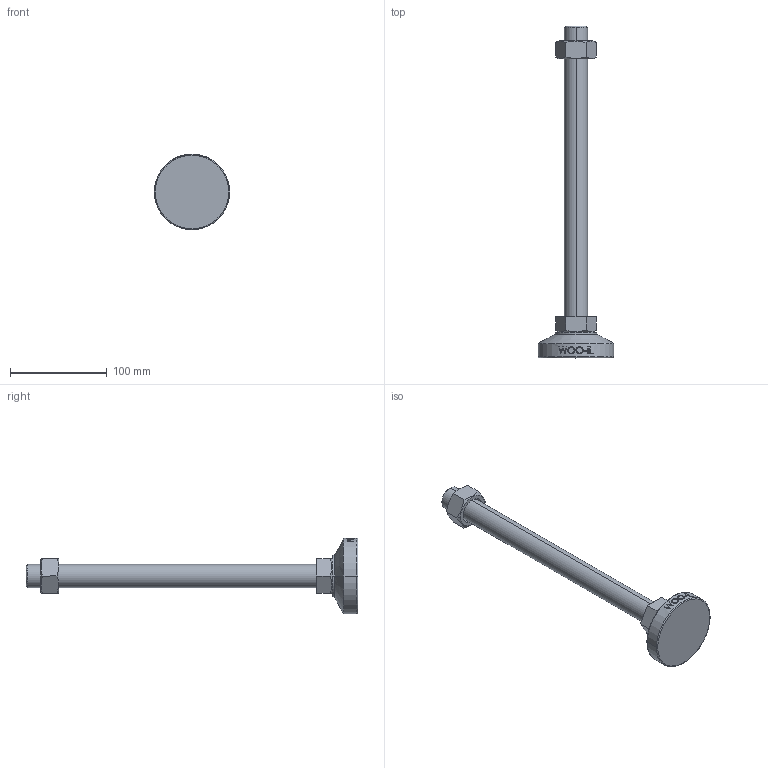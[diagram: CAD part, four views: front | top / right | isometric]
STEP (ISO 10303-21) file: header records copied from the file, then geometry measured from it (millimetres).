
FILE_DESCRIPTION (( 'STEP AP214' ), '1' );
FILE_NAME ('MFB78-M24-300.step', '2022-06-27T08:35:56', ( '' ), ( '' ), 'SwSTEP 2.0', 'SolidWorks 2019', '' );
FILE_SCHEMA (( 'AUTOMOTIVE_DESIGN' ));
Length unit declared in the file: millimetre
Products named in the file (1): MFB78-M24-300
Bounding box: 78 x 342.5 x 78 mm (x, y, z)
Volume: 268420.2 mm3; surface area: 45444.6 mm2
Topology: 3 solids, 3 shells, 97 faces, 225 edges, 144 vertices
Faces by surface type: plane 47, cylinder 16, bspline 16, cone 14, torus 4
Entity records: 4305 total; most frequent: CARTESIAN_POINT 2175, ORIENTED_EDGE 450, DIRECTION 385, EDGE_CURVE 225, VERTEX_POINT 144, AXIS2_PLACEMENT_3D 144, EDGE_LOOP 109, VECTOR 97
